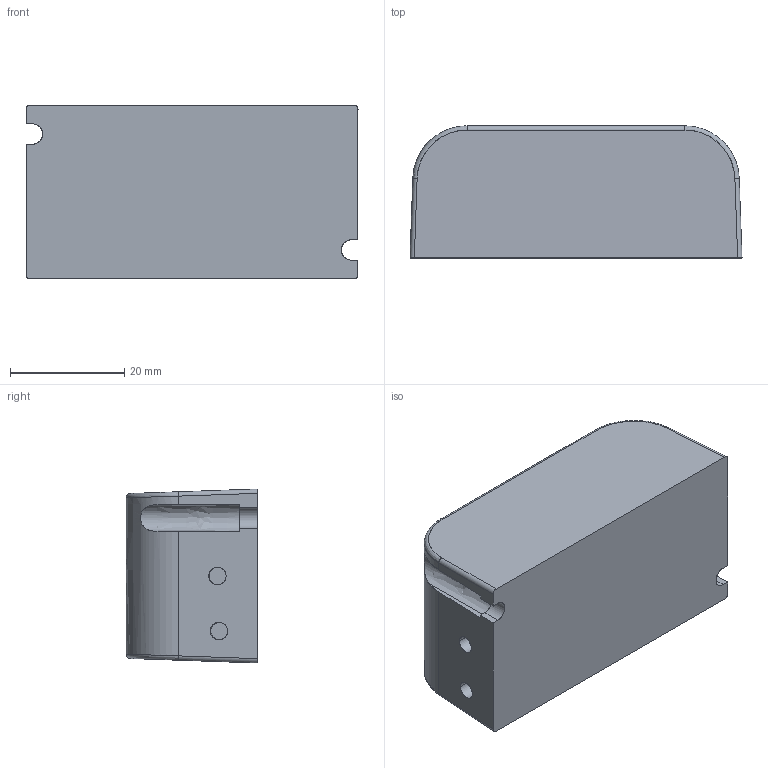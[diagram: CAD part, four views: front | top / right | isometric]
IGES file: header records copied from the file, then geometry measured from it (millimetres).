
Start section: SolidWorks IGES file using analytic representation for surfaces
Global section: file name: C:\Users\USER\Dropbox\AC_Electronics\10W\AC10CD250AT2K.IGS; native system: SolidWorks 2016; preprocessor: SolidWorks 2016; author: USER; date: 171031.203126; units: inch
Bounding box: 58.17 x 23.11 x 30.48 mm (x, y, z)
Surface area: 7396.3 mm2 (no closed solid volume)
Topology: 0 solids, 0 shells, 203 faces, 3403 edges, 3938 vertices
Faces by surface type: bspline 183, revolution 20
